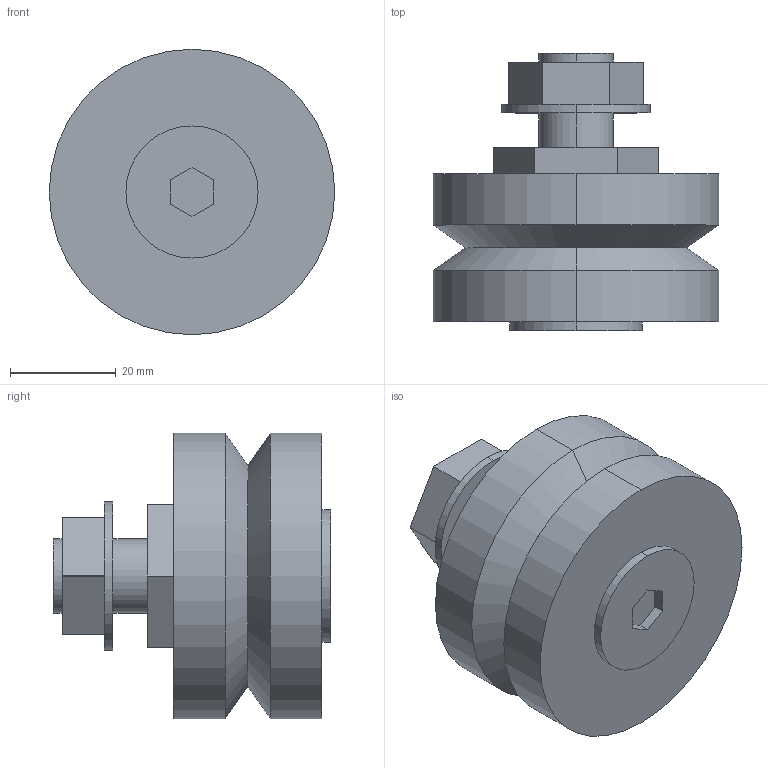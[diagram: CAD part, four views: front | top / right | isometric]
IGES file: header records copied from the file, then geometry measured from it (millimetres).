
Start section: 3D InterOp IGES (v. 2019 1.0.2), Spatial Corp. Copyright (c) 1999-2017.
Global section: file name: SJ 54 C.igs; native system: Spatial Corp.; preprocessor: 3D InterOp GENERIC/IGES 3.0; author: Noname; organization: Noname; date: 20220628.165358; units: millimetre
Bounding box: 54 x 52.5 x 54 mm (x, y, z)
Surface area: 12815.5 mm2 (no closed solid volume)
Topology: 0 solids, 0 shells, 43 faces, 192 edges, 192 vertices
Faces by surface type: extrusion 27, revolution 16
